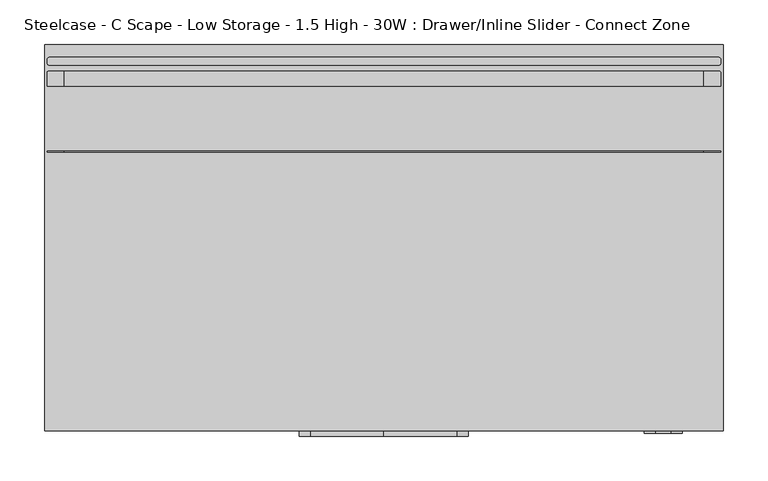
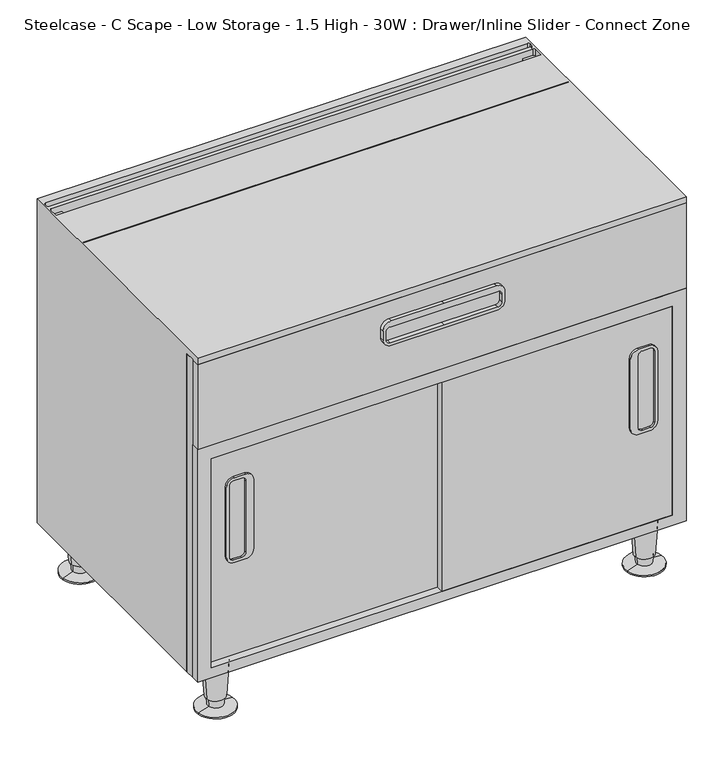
"""IFC4 building model written with IfcOpenShell, lengths in millimetres: furniture geometry, Steelcase - C Scape - Low Storage - 1.5 High - 30W : Drawer/Inline Slider - Connect Zone."""

from ifc_helpers import new_model, si_unit, point, frame, frame_2d, origin, place, context, project, spatial, polyline, circle_curve, trimmed, segment, composite_curve, outline, extrude, source, transform, mapped, element, save
from ifc_brep_helpers import plane_surface, cylinder_surface, revolved_surface, advanced_brep


def steelcase_c_scape_low_storage_1_5_high_30w_drawer_inline_f1fdb914(model_context):
    return source(origin(), model_context, "Body", "SolidModel", [
        extrude(outline(composite_curve([segment(trimmed(circle_curve(frame_2d((373.5963095, 685.0136914)), 12.7015503), [point((386.2978598, 685.0136914))], [point((373.5963095, 672.3121411))], False, "CARTESIAN"), True, "CONTINUOUS"), segment(polyline([(373.5963095, 672.3121411), (259.2993979, 672.3121411)]), True, "CONTINUOUS"), segment(trimmed(circle_curve(frame_2d((259.2993979, 685.0136914)), 12.7015503), [point((259.2993979, 672.3121411))], [point((246.5978477, 685.0136914))], False, "CARTESIAN"), True, "CONTINUOUS"), segment(polyline([(246.5978477, 685.0136914), (246.5978477, 701.902577)]), True, "CONTINUOUS"), segment(trimmed(circle_curve(frame_2d((259.2978537, 701.902577)), 12.7000061), [point((246.5978477, 701.902577))], [point((259.2978537, 714.602583))], False, "CARTESIAN"), True, "CONTINUOUS"), segment(polyline([(259.2978537, 714.602583), (373.6009603, 714.602583)]), True, "CONTINUOUS"), segment(trimmed(circle_curve(frame_2d((373.6009603, 701.9056836)), 12.6968994), [point((373.6009603, 714.602583))], [point((386.2978598, 701.9056836))], False, "CARTESIAN"), True, "CONTINUOUS"), segment(polyline([(386.2978598, 701.9056836), (386.2978598, 685.0136914)]), True, "CONTINUOUS")], self_intersect=False), holes=[composite_curve([segment(trimmed(circle_curve(frame_2d((257.7496016, 703.426521)), 6.3531006), [point((257.7496016, 709.7796216))], [point((251.396501, 703.426521))], True, "CARTESIAN"), True, "CONTINUOUS"), segment(polyline([(251.396501, 703.426521), (251.396501, 690.7296216)]), True, "CONTINUOUS"), segment(trimmed(circle_curve(frame_2d((257.7496016, 690.7296216)), 6.3531006), [point((251.396501, 690.7296216))], [point((257.7496016, 684.376521))], True, "CARTESIAN"), True, "CONTINUOUS"), segment(polyline([(257.7496016, 684.376521), (375.0913854, 684.376521)]), True, "CONTINUOUS"), segment(trimmed(circle_curve(frame_2d((375.0913854, 690.7296216)), 6.3531006), [point((375.0913854, 684.376521))], [point((381.444486, 690.7296216))], True, "CARTESIAN"), True, "CONTINUOUS"), segment(polyline([(381.444486, 690.7296216), (381.444486, 703.426521)]), True, "CONTINUOUS"), segment(trimmed(circle_curve(frame_2d((375.0913854, 703.426521)), 6.3531006), [point((381.444486, 703.426521))], [point((375.0913854, 709.7796216))], True, "CARTESIAN"), True, "CONTINUOUS"), segment(polyline([(375.0913854, 709.7796216), (257.7496016, 709.7796216)]), True, "CONTINUOUS")], self_intersect=False)]), frame((0.0, -436.1182586, 0.0), z_axis=(0.0, 1.0, 0.0), x_axis=(0.0, 0.0, 1.0)), (0.0, 0.0, 1.0), 3.0482586),
        extrude(outline(composite_curve([segment(polyline([(386.2978598, 79.2484961), (386.2978598, 62.3565039)]), True, "CONTINUOUS"), segment(trimmed(circle_curve(frame_2d((373.6009603, 62.3565039)), 12.6968994), [point((386.2978598, 62.3565039))], [point((373.6009603, 49.6596045))], False, "CARTESIAN"), True, "CONTINUOUS"), segment(polyline([(373.6009603, 49.6596045), (259.2978537, 49.6596045)]), True, "CONTINUOUS"), segment(trimmed(circle_curve(frame_2d((259.2978537, 62.3596105)), 12.7000061), [point((259.2978537, 49.6596045))], [point((246.5978477, 62.3596105))], False, "CARTESIAN"), True, "CONTINUOUS"), segment(polyline([(246.5978477, 62.3596105), (246.5978477, 79.2484961)]), True, "CONTINUOUS"), segment(trimmed(circle_curve(frame_2d((259.2993979, 79.2484961)), 12.7015503), [point((246.5978477, 79.2484961))], [point((259.2993979, 91.9500464))], False, "CARTESIAN"), True, "CONTINUOUS"), segment(polyline([(259.2993979, 91.9500464), (373.5963095, 91.9500464)]), True, "CONTINUOUS"), segment(trimmed(circle_curve(frame_2d((373.5963095, 79.2484961)), 12.7015503), [point((373.5963095, 91.9500464))], [point((386.2978598, 79.2484961))], False, "CARTESIAN"), True, "CONTINUOUS")], self_intersect=False), holes=[composite_curve([segment(polyline([(257.7496016, 54.4825659), (375.0913854, 54.4825659)]), True, "CONTINUOUS"), segment(trimmed(circle_curve(frame_2d((375.0913854, 60.8356665)), 6.3531006), [point((375.0913854, 54.4825659))], [point((381.444486, 60.8356665))], True, "CARTESIAN"), True, "CONTINUOUS"), segment(polyline([(381.444486, 60.8356665), (381.444486, 73.5325659)]), True, "CONTINUOUS"), segment(trimmed(circle_curve(frame_2d((375.0913854, 73.5325659)), 6.3531006), [point((381.444486, 73.5325659))], [point((375.0913854, 79.8856665))], True, "CARTESIAN"), True, "CONTINUOUS"), segment(polyline([(375.0913854, 79.8856665), (257.7496016, 79.8856665)]), True, "CONTINUOUS"), segment(trimmed(circle_curve(frame_2d((257.7496016, 73.5325659)), 6.3531006), [point((257.7496016, 79.8856665))], [point((251.396501, 73.5325659))], True, "CARTESIAN"), True, "CONTINUOUS"), segment(polyline([(251.396501, 73.5325659), (251.396501, 60.8356665)]), True, "CONTINUOUS"), segment(trimmed(circle_curve(frame_2d((257.7496016, 60.8356665)), 6.3531006), [point((251.396501, 60.8356665))], [point((257.7496016, 54.4825659))], True, "CARTESIAN"), True, "CONTINUOUS")], self_intersect=False)]), frame((0.0, -424.7213475, 0.0), z_axis=(0.0, 1.0, 0.0), x_axis=(0.0, 0.0, 1.0)), (0.0, 0.0, 1.0), 3.0770066),
        extrude(outline(polyline([(458.7875121, 0.0), (76.2, 0.0), (76.2, 760.73), (458.7875121, 760.73), (458.7875121, 0.0)]), holes=[polyline([(436.8419, 21.3382324), (436.8419, 738.7617285), (92.7100024, 738.7617285), (92.7100024, 21.3382324), (436.8419, 21.3382324)])]), frame((0.0, -433.07, 0.0), z_axis=(0.0, 1.0, 0.0), x_axis=(0.0, 0.0, 1.0)), (0.0, 0.0, 1.0), 13.7159457),
        extrude(outline(polyline([(599.4499291, 0.0), (76.2, 0.0), (76.2, 760.73), (599.4499291, 760.73), (599.4499291, 320.0585382), (599.4499291, 0.0)]), holes=[polyline([(458.7875121, 21.3382324), (582.9399291, 21.3382324), (582.9399291, 738.7617285), (458.7875121, 738.7617285), (458.7875121, 21.3382324)]), polyline([(436.841904, 21.3256814), (436.841904, 738.7617285), (92.7100024, 738.7617285), (92.7100024, 21.3256814), (436.841904, 21.3256814)])]), frame((0.0, -419.3540543, 0.0), z_axis=(0.0, 1.0, 0.0), x_axis=(0.0, 0.0, 1.0)), (0.0, 0.0, 1.0), 14.9860039),
        extrude(outline(composite_curve([segment(trimmed(circle_curve(frame_2d((558.1749291, 297.8147442)), 12.7), [point((570.8749291, 297.8147442))], [point((558.1749291, 285.1147442))], False, "CARTESIAN"), True, "CONTINUOUS"), segment(polyline([(558.1749291, 285.1147442), (543.5699582, 285.1147442)]), True, "CONTINUOUS"), segment(trimmed(circle_curve(frame_2d((543.5699582, 297.8147442)), 12.7), [point((543.5699582, 285.1147442))], [point((530.8699582, 297.8147442))], False, "CARTESIAN"), True, "CONTINUOUS"), segment(polyline([(530.8699582, 297.8147442), (530.8699582, 380.0475), (530.8699582, 462.2802558)]), True, "CONTINUOUS"), segment(trimmed(circle_curve(frame_2d((543.5699582, 462.2802558)), 12.7), [point((530.8699582, 462.2802558))], [point((543.5699582, 474.9802558))], False, "CARTESIAN"), True, "CONTINUOUS"), segment(polyline([(543.5699582, 474.9802558), (558.1749291, 474.9802558)]), True, "CONTINUOUS"), segment(trimmed(circle_curve(frame_2d((558.1749291, 462.2802558)), 12.7), [point((558.1749291, 474.9802558))], [point((570.8749291, 462.2802558))], False, "CARTESIAN"), True, "CONTINUOUS"), segment(polyline([(570.8749291, 462.2802558), (570.8749291, 380.0475), (570.8749291, 297.8147442)]), True, "CONTINUOUS")], self_intersect=False), holes=[composite_curve([segment(trimmed(circle_curve(frame_2d((554.7459476, 296.2923565)), 6.35), [point((554.7459476, 289.9423565))], [point((561.0959476, 296.2923565))], True, "CARTESIAN"), True, "CONTINUOUS"), segment(polyline([(561.0959476, 296.2923565), (561.0959476, 380.0475), (561.0959476, 463.8026435)]), True, "CONTINUOUS"), segment(trimmed(circle_curve(frame_2d((554.7459476, 463.8026435)), 6.35), [point((561.0959476, 463.8026435))], [point((554.7459476, 470.1526435))], True, "CARTESIAN"), True, "CONTINUOUS"), segment(polyline([(554.7459476, 470.1526435), (542.0459354, 470.1526435)]), True, "CONTINUOUS"), segment(trimmed(circle_curve(frame_2d((542.0459354, 463.8026435)), 6.35), [point((542.0459354, 470.1526435))], [point((535.6959354, 463.8026435))], True, "CARTESIAN"), True, "CONTINUOUS"), segment(polyline([(535.6959354, 463.8026435), (535.6959354, 380.0475), (535.6959354, 296.2923565)]), True, "CONTINUOUS"), segment(trimmed(circle_curve(frame_2d((542.0459354, 296.2923565)), 6.35), [point((535.6959354, 296.2923565))], [point((542.0459354, 289.9423565))], True, "CARTESIAN"), True, "CONTINUOUS"), segment(polyline([(542.0459354, 289.9423565), (554.7459476, 289.9423565)]), True, "CONTINUOUS")], self_intersect=False)]), frame((0.0, -439.42, 0.0), z_axis=(0.0, 1.0, 0.0), x_axis=(0.0, 0.0, 1.0)), (0.0, 0.0, 1.0), 6.35),
        advanced_brep(
        [(65.5422821, -397.1702762, 76.2), (27.8805432, -402.9325174, 76.2), (46.7114126, -400.0513968, 76.2), (61.5919341, -397.774679, 19.05), (31.8308912, -402.3281146, 19.05), (59.1623471, -398.1464055, 19.05), (34.2604781, -401.9563882, 19.05), (58.4735776, -398.2517871, 5.7545598), (34.9492476, -401.8510065, 5.7545598), (75.8224611, -395.5974102, 2.5119506), (17.6003641, -404.5053834, 2.5119506), (75.8224611, -395.5974102, 0.0), (17.6003641, -404.5053834, 0.0), (46.7114126, -400.0513968, 0.0)],
        [
            (0, 1, circle_curve(frame((46.7114126, -400.0513968, 76.2), z_axis=(0.0, 0.0, 1.0), x_axis=(0.0, -1.0, 0.0)), 19.05)),
            (1, 2),
            (2, 0),
            (1, 0, circle_curve(frame((46.7114126, -400.0513968, 76.2), z_axis=(0.0, 0.0, 1.0), x_axis=(0.0, -1.0, 0.0)), 19.05)),
            (3, 4, circle_curve(frame((46.7114126, -400.0513968, 19.05), z_axis=(0.0, 0.0, 1.0), x_axis=(0.0, -1.0, 0.0)), 15.0536827)),
            (4, 1),
            (0, 3),
            (4, 3, circle_curve(frame((46.7114126, -400.0513968, 19.05), z_axis=(0.0, 0.0, 1.0), x_axis=(0.0, -1.0, 0.0)), 15.0536827)),
            (5, 6, circle_curve(frame((46.7114126, -400.0513968, 19.05), z_axis=(0.0, 0.0, 1.0), x_axis=(0.0, -1.0, 0.0)), 12.5958232)),
            (6, 4),
            (3, 5),
            (6, 5, circle_curve(frame((46.7114126, -400.0513968, 19.05), z_axis=(0.0, 0.0, 1.0), x_axis=(0.0, -1.0, 0.0)), 12.5958232)),
            (7, 8, circle_curve(frame((46.7114126, -400.0513968, 5.7545598), z_axis=(0.0, 0.0, 1.0), x_axis=(0.0, -1.0, 0.0)), 11.8990387)),
            (8, 6),
            (5, 7),
            (8, 7, circle_curve(frame((46.7114126, -400.0513968, 5.7545598), z_axis=(0.0, 0.0, 1.0), x_axis=(0.0, -1.0, 0.0)), 11.8990387)),
            (9, 10, circle_curve(frame((46.7114126, -400.0513968, 2.5119506), z_axis=(0.0, 0.0, 1.0), x_axis=(0.0, -1.0, 0.0)), 29.4498071)),
            (10, 8),
            (7, 9),
            (10, 9, circle_curve(frame((46.7114126, -400.0513968, 2.5119506), z_axis=(0.0, 0.0, 1.0), x_axis=(0.0, -1.0, 0.0)), 29.4498071)),
            (11, 12, circle_curve(frame((46.7114126, -400.0513968, 0.0), z_axis=(0.0, 0.0, 1.0), x_axis=(0.0, -1.0, 0.0)), 29.4498071)),
            (12, 10),
            (9, 11),
            (12, 11, circle_curve(frame((46.7114126, -400.0513968, 0.0), z_axis=(0.0, 0.0, 1.0), x_axis=(0.0, -1.0, 0.0)), 29.4498071)),
            (13, 12),
            (11, 13),
        ],
        [
            plane_surface(frame((46.7114126, -400.0513968, 76.2), z_axis=(0.0, 0.0, 1.0), x_axis=(0.0, -1.0, 0.0))),
            revolved_surface(polyline([(46.7114126, -419.1013968, 76.2), (46.7114126, -415.1050795, 19.05)]), (46.7114126, -400.0513968, 25.4), (0.0, 0.0, -1.0)),
            plane_surface(frame((46.7114126, -400.0513968, 19.05), z_axis=(0.0, 0.0, -1.0), x_axis=(0.0, -1.0, 0.0))),
            revolved_surface(polyline([(46.7114126, -412.64722, 19.05), (46.7114126, -411.9504355, 5.7545598)]), (46.7114126, -400.0513968, 25.4), (0.0, 0.0, -1.0)),
            revolved_surface(polyline([(46.7114126, -411.9504355, 5.7545598), (46.7114126, -429.5012039, 2.5119506)]), (46.7114126, -400.0513968, 25.4), (0.0, 0.0, -1.0)),
            cylinder_surface(frame((46.7114126, -400.0513968, 25.4), z_axis=(0.0, 0.0, -1.0), x_axis=(0.0, -1.0, 0.0)), 29.4498071),
            plane_surface(frame((46.7114126, -400.0513968, 0.0), z_axis=(0.0, 0.0, -1.0), x_axis=(0.0, -1.0, 0.0))),
        ],
        [
            (0, [[1, 2, 3]]),
            (0, [[4, -3, -2]]),
            (1, [[5, 6, -1, 7]]),
            (1, [[8, -7, -4, -6]]),
            (2, [[9, 10, -5, 11]]),
            (2, [[12, -11, -8, -10]]),
            (3, [[13, 14, -9, 15]]),
            (3, [[16, -15, -12, -14]]),
            (4, [[17, 18, -13, 19]]),
            (4, [[20, -19, -16, -18]]),
            (5, [[21, 22, -17, 23]]),
            (5, [[24, -23, -20, -22]]),
            (6, [[25, -21, 26]]),
            (6, [[-26, -24, -25]]),
        ],
    ),
        advanced_brep(
        [(733.4598695, -397.1702762, 76.2), (695.7981305, -402.9325174, 76.2), (714.629, -400.0513968, 76.2), (729.5095214, -397.774679, 19.05), (699.7484786, -402.3281146, 19.05), (727.0799345, -398.1464055, 19.05), (702.1780655, -401.9563882, 19.05), (726.391165, -398.2517871, 5.7545598), (702.866835, -401.8510065, 5.7545598), (743.7400485, -395.5974102, 2.5119506), (685.5179515, -404.5053834, 2.5119506), (743.7400485, -395.5974102, 0.0), (685.5179515, -404.5053834, 0.0), (714.629, -400.0513968, 0.0)],
        [
            (0, 1, circle_curve(frame((714.629, -400.0513968, 76.2), z_axis=(0.0, 0.0, 1.0), x_axis=(0.0, -1.0, 0.0)), 19.05)),
            (1, 2),
            (2, 0),
            (1, 0, circle_curve(frame((714.629, -400.0513968, 76.2), z_axis=(0.0, 0.0, 1.0), x_axis=(0.0, -1.0, 0.0)), 19.05)),
            (3, 4, circle_curve(frame((714.629, -400.0513968, 19.05), z_axis=(0.0, 0.0, 1.0), x_axis=(0.0, -1.0, 0.0)), 15.0536827)),
            (4, 1),
            (0, 3),
            (4, 3, circle_curve(frame((714.629, -400.0513968, 19.05), z_axis=(0.0, 0.0, 1.0), x_axis=(0.0, -1.0, 0.0)), 15.0536827)),
            (5, 6, circle_curve(frame((714.629, -400.0513968, 19.05), z_axis=(0.0, 0.0, 1.0), x_axis=(0.0, -1.0, 0.0)), 12.5958232)),
            (6, 4),
            (3, 5),
            (6, 5, circle_curve(frame((714.629, -400.0513968, 19.05), z_axis=(0.0, 0.0, 1.0), x_axis=(0.0, -1.0, 0.0)), 12.5958232)),
            (7, 8, circle_curve(frame((714.629, -400.0513968, 5.7545598), z_axis=(0.0, 0.0, 1.0), x_axis=(0.0, -1.0, 0.0)), 11.8990387)),
            (8, 6),
            (5, 7),
            (8, 7, circle_curve(frame((714.629, -400.0513968, 5.7545598), z_axis=(0.0, 0.0, 1.0), x_axis=(0.0, -1.0, 0.0)), 11.8990387)),
            (9, 10, circle_curve(frame((714.629, -400.0513968, 2.5119506), z_axis=(0.0, 0.0, 1.0), x_axis=(0.0, -1.0, 0.0)), 29.4498071)),
            (10, 8),
            (7, 9),
            (10, 9, circle_curve(frame((714.629, -400.0513968, 2.5119506), z_axis=(0.0, 0.0, 1.0), x_axis=(0.0, -1.0, 0.0)), 29.4498071)),
            (11, 12, circle_curve(frame((714.629, -400.0513968, 0.0), z_axis=(0.0, 0.0, 1.0), x_axis=(0.0, -1.0, 0.0)), 29.4498071)),
            (12, 10),
            (9, 11),
            (12, 11, circle_curve(frame((714.629, -400.0513968, 0.0), z_axis=(0.0, 0.0, 1.0), x_axis=(0.0, -1.0, 0.0)), 29.4498071)),
            (13, 12),
            (11, 13),
        ],
        [
            plane_surface(frame((714.629, -400.0513968, 76.2), z_axis=(0.0, 0.0, 1.0), x_axis=(0.0, -1.0, 0.0))),
            revolved_surface(polyline([(714.629, -419.1013968, 76.2), (714.629, -415.1050795, 19.05)]), (714.629, -400.0513968, 25.4), (0.0, 0.0, -1.0)),
            plane_surface(frame((714.629, -400.0513968, 19.05), z_axis=(0.0, 0.0, -1.0), x_axis=(0.0, -1.0, 0.0))),
            revolved_surface(polyline([(714.629, -412.64722, 19.05), (714.629, -411.9504355, 5.7545598)]), (714.629, -400.0513968, 25.4), (0.0, 0.0, -1.0)),
            revolved_surface(polyline([(714.629, -411.9504355, 5.7545598), (714.629, -429.5012039, 2.5119506)]), (714.629, -400.0513968, 25.4), (0.0, 0.0, -1.0)),
            cylinder_surface(frame((714.629, -400.0513968, 25.4), z_axis=(0.0, 0.0, -1.0), x_axis=(0.0, -1.0, 0.0)), 29.4498071),
            plane_surface(frame((714.629, -400.0513968, 0.0), z_axis=(0.0, 0.0, -1.0), x_axis=(0.0, -1.0, 0.0))),
        ],
        [
            (0, [[1, 2, 3]]),
            (0, [[4, -3, -2]]),
            (1, [[5, 6, -1, 7]]),
            (1, [[8, -7, -4, -6]]),
            (2, [[9, 10, -5, 11]]),
            (2, [[12, -11, -8, -10]]),
            (3, [[13, 14, -9, 15]]),
            (3, [[16, -15, -12, -14]]),
            (4, [[17, 18, -13, 19]]),
            (4, [[20, -19, -16, -18]]),
            (5, [[21, 22, -17, 23]]),
            (5, [[24, -23, -20, -22]]),
            (6, [[25, -21, 26]]),
            (6, [[-26, -24, -25]]),
        ],
    ),
        advanced_brep(
        [(733.4598695, -31.5218435, 76.2), (695.7981305, -37.2840847, 76.2), (714.629, -34.4029641, 76.2), (729.5095214, -32.1262463, 19.05), (699.7484786, -36.6796819, 19.05), (727.0799345, -32.4979728, 19.05), (702.1780655, -36.3079555, 19.05), (726.391165, -32.6033544, 5.7545598), (702.866835, -36.2025738, 5.7545598), (743.7400485, -29.9489775, 2.5119506), (685.5179515, -38.8569507, 2.5119506), (743.7400485, -29.9489775, 0.0), (685.5179515, -38.8569507, 0.0), (714.629, -34.4029641, 0.0)],
        [
            (0, 1, circle_curve(frame((714.629, -34.4029641, 76.2), z_axis=(0.0, 0.0, 1.0), x_axis=(0.0, -1.0, 0.0)), 19.05)),
            (1, 2),
            (2, 0),
            (1, 0, circle_curve(frame((714.629, -34.4029641, 76.2), z_axis=(0.0, 0.0, 1.0), x_axis=(0.0, -1.0, 0.0)), 19.05)),
            (3, 4, circle_curve(frame((714.629, -34.4029641, 19.05), z_axis=(0.0, 0.0, 1.0), x_axis=(0.0, -1.0, 0.0)), 15.0536827)),
            (4, 1),
            (0, 3),
            (4, 3, circle_curve(frame((714.629, -34.4029641, 19.05), z_axis=(0.0, 0.0, 1.0), x_axis=(0.0, -1.0, 0.0)), 15.0536827)),
            (5, 6, circle_curve(frame((714.629, -34.4029641, 19.05), z_axis=(0.0, 0.0, 1.0), x_axis=(0.0, -1.0, 0.0)), 12.5958232)),
            (6, 4),
            (3, 5),
            (6, 5, circle_curve(frame((714.629, -34.4029641, 19.05), z_axis=(0.0, 0.0, 1.0), x_axis=(0.0, -1.0, 0.0)), 12.5958232)),
            (7, 8, circle_curve(frame((714.629, -34.4029641, 5.7545598), z_axis=(0.0, 0.0, 1.0), x_axis=(0.0, -1.0, 0.0)), 11.8990387)),
            (8, 6),
            (5, 7),
            (8, 7, circle_curve(frame((714.629, -34.4029641, 5.7545598), z_axis=(0.0, 0.0, 1.0), x_axis=(0.0, -1.0, 0.0)), 11.8990387)),
            (9, 10, circle_curve(frame((714.629, -34.4029641, 2.5119506), z_axis=(0.0, 0.0, 1.0), x_axis=(0.0, -1.0, 0.0)), 29.4498071)),
            (10, 8),
            (7, 9),
            (10, 9, circle_curve(frame((714.629, -34.4029641, 2.5119506), z_axis=(0.0, 0.0, 1.0), x_axis=(0.0, -1.0, 0.0)), 29.4498071)),
            (11, 12, circle_curve(frame((714.629, -34.4029641, 0.0), z_axis=(0.0, 0.0, 1.0), x_axis=(0.0, -1.0, 0.0)), 29.4498071)),
            (12, 10),
            (9, 11),
            (12, 11, circle_curve(frame((714.629, -34.4029641, 0.0), z_axis=(0.0, 0.0, 1.0), x_axis=(0.0, -1.0, 0.0)), 29.4498071)),
            (13, 12),
            (11, 13),
        ],
        [
            plane_surface(frame((714.629, -34.4029641, 76.2), z_axis=(0.0, 0.0, 1.0), x_axis=(0.0, -1.0, 0.0))),
            revolved_surface(polyline([(714.629, -53.4529641, 76.2), (714.629, -49.4566468, 19.05)]), (714.629, -34.4029641, 25.4), (0.0, 0.0, -1.0)),
            plane_surface(frame((714.629, -34.4029641, 19.05), z_axis=(0.0, 0.0, -1.0), x_axis=(0.0, -1.0, 0.0))),
            revolved_surface(polyline([(714.629, -46.9987873, 19.05), (714.629, -46.3020028, 5.7545598)]), (714.629, -34.4029641, 25.4), (0.0, 0.0, -1.0)),
            revolved_surface(polyline([(714.629, -46.3020028, 5.7545598), (714.629, -63.8527712, 2.5119506)]), (714.629, -34.4029641, 25.4), (0.0, 0.0, -1.0)),
            cylinder_surface(frame((714.629, -34.4029641, 25.4), z_axis=(0.0, 0.0, -1.0), x_axis=(0.0, -1.0, 0.0)), 29.4498071),
            plane_surface(frame((714.629, -34.4029641, 0.0), z_axis=(0.0, 0.0, -1.0), x_axis=(0.0, -1.0, 0.0))),
        ],
        [
            (0, [[1, 2, 3]]),
            (0, [[4, -3, -2]]),
            (1, [[5, 6, -1, 7]]),
            (1, [[8, -7, -4, -6]]),
            (2, [[9, 10, -5, 11]]),
            (2, [[12, -11, -8, -10]]),
            (3, [[13, 14, -9, 15]]),
            (3, [[16, -15, -12, -14]]),
            (4, [[17, 18, -13, 19]]),
            (4, [[20, -19, -16, -18]]),
            (5, [[21, 22, -17, 23]]),
            (5, [[24, -23, -20, -22]]),
            (6, [[25, -21, 26]]),
            (6, [[-26, -24, -25]]),
        ],
    ),
        advanced_brep(
        [(65.5422821, -31.5218435, 76.2), (27.8805432, -37.2840847, 76.2), (46.7114126, -34.4029641, 76.2), (61.5919341, -32.1262463, 19.05), (31.8308912, -36.6796819, 19.05), (59.1623471, -32.4979728, 19.05), (34.2604781, -36.3079555, 19.05), (58.4735776, -32.6033544, 5.7545598), (34.9492476, -36.2025738, 5.7545598), (75.8224611, -29.9489775, 2.5119506), (17.6003641, -38.8569507, 2.5119506), (75.8224611, -29.9489775, 0.0), (17.6003641, -38.8569507, 0.0), (46.7114126, -34.4029641, 0.0)],
        [
            (0, 1, circle_curve(frame((46.7114126, -34.4029641, 76.2), z_axis=(0.0, 0.0, 1.0), x_axis=(0.0, -1.0, 0.0)), 19.05)),
            (1, 2),
            (2, 0),
            (1, 0, circle_curve(frame((46.7114126, -34.4029641, 76.2), z_axis=(0.0, 0.0, 1.0), x_axis=(0.0, -1.0, 0.0)), 19.05)),
            (3, 4, circle_curve(frame((46.7114126, -34.4029641, 19.05), z_axis=(0.0, 0.0, 1.0), x_axis=(0.0, -1.0, 0.0)), 15.0536827)),
            (4, 1),
            (0, 3),
            (4, 3, circle_curve(frame((46.7114126, -34.4029641, 19.05), z_axis=(0.0, 0.0, 1.0), x_axis=(0.0, -1.0, 0.0)), 15.0536827)),
            (5, 6, circle_curve(frame((46.7114126, -34.4029641, 19.05), z_axis=(0.0, 0.0, 1.0), x_axis=(0.0, -1.0, 0.0)), 12.5958232)),
            (6, 4),
            (3, 5),
            (6, 5, circle_curve(frame((46.7114126, -34.4029641, 19.05), z_axis=(0.0, 0.0, 1.0), x_axis=(0.0, -1.0, 0.0)), 12.5958232)),
            (7, 8, circle_curve(frame((46.7114126, -34.4029641, 5.7545598), z_axis=(0.0, 0.0, 1.0), x_axis=(0.0, -1.0, 0.0)), 11.8990387)),
            (8, 6),
            (5, 7),
            (8, 7, circle_curve(frame((46.7114126, -34.4029641, 5.7545598), z_axis=(0.0, 0.0, 1.0), x_axis=(0.0, -1.0, 0.0)), 11.8990387)),
            (9, 10, circle_curve(frame((46.7114126, -34.4029641, 2.5119506), z_axis=(0.0, 0.0, 1.0), x_axis=(0.0, -1.0, 0.0)), 29.4498071)),
            (10, 8),
            (7, 9),
            (10, 9, circle_curve(frame((46.7114126, -34.4029641, 2.5119506), z_axis=(0.0, 0.0, 1.0), x_axis=(0.0, -1.0, 0.0)), 29.4498071)),
            (11, 12, circle_curve(frame((46.7114126, -34.4029641, 0.0), z_axis=(0.0, 0.0, 1.0), x_axis=(0.0, -1.0, 0.0)), 29.4498071)),
            (12, 10),
            (9, 11),
            (12, 11, circle_curve(frame((46.7114126, -34.4029641, 0.0), z_axis=(0.0, 0.0, 1.0), x_axis=(0.0, -1.0, 0.0)), 29.4498071)),
            (13, 12),
            (11, 13),
        ],
        [
            plane_surface(frame((46.7114126, -34.4029641, 76.2), z_axis=(0.0, 0.0, 1.0), x_axis=(0.0, -1.0, 0.0))),
            revolved_surface(polyline([(46.7114126, -53.4529641, 76.2), (46.7114126, -49.4566468, 19.05)]), (46.7114126, -34.4029641, 25.4), (0.0, 0.0, -1.0)),
            plane_surface(frame((46.7114126, -34.4029641, 19.05), z_axis=(0.0, 0.0, -1.0), x_axis=(0.0, -1.0, 0.0))),
            revolved_surface(polyline([(46.7114126, -46.9987873, 19.05), (46.7114126, -46.3020028, 5.7545598)]), (46.7114126, -34.4029641, 25.4), (0.0, 0.0, -1.0)),
            revolved_surface(polyline([(46.7114126, -46.3020028, 5.7545598), (46.7114126, -63.8527712, 2.5119506)]), (46.7114126, -34.4029641, 25.4), (0.0, 0.0, -1.0)),
            cylinder_surface(frame((46.7114126, -34.4029641, 25.4), z_axis=(0.0, 0.0, -1.0), x_axis=(0.0, -1.0, 0.0)), 29.4498071),
            plane_surface(frame((46.7114126, -34.4029641, 0.0), z_axis=(0.0, 0.0, -1.0), x_axis=(0.0, -1.0, 0.0))),
        ],
        [
            (0, [[1, 2, 3]]),
            (0, [[4, -3, -2]]),
            (1, [[5, 6, -1, 7]]),
            (1, [[8, -7, -4, -6]]),
            (2, [[9, 10, -5, 11]]),
            (2, [[12, -11, -8, -10]]),
            (3, [[13, 14, -9, 15]]),
            (3, [[16, -15, -12, -14]]),
            (4, [[17, 18, -13, 19]]),
            (4, [[20, -19, -16, -18]]),
            (5, [[21, 22, -17, 23]]),
            (5, [[24, -23, -20, -22]]),
            (6, [[25, -21, 26]]),
            (6, [[-26, -24, -25]]),
        ],
    ),
        advanced_brep(
        [(757.9272317, -120.6444193, 609.6), (757.9272317, -119.3775195, 609.6), (757.9272317, -119.3775195, 599.4499291), (757.9272317, -120.6444193, 599.4499291), (757.9272317, -46.4703418, 609.6), (757.9272317, -32.274699, 609.6), (757.9272317, -32.274699, 599.4499291), (757.9272317, -46.4703418, 599.4499291), (757.9272317, -20.3138654, 609.6), (757.9272317, -17.0388453, 609.6), (757.9272317, -17.0388453, 599.4499291), (757.9272317, -20.3138654, 599.4499291), (760.73, 0.0055807, 609.6), (760.73, -433.07, 609.6), (760.73, -433.07, 599.4499291), (760.73, -404.3680504, 599.4499291), (760.73, -404.3680504, 76.2), (760.73, 0.0, 76.2), (0.0, -433.07, 609.6), (-0.012551, 0.0055807, 609.6), (755.2308823, -29.5783496, 609.6), (2.7826272, -46.4703418, 609.6), (2.7826272, -32.0458511, 609.6), (5.2501287, -29.5783496, 609.6), (754.9507358, -23.2903613, 609.6), (5.5670648, -23.2903613, 609.6), (2.7826272, -20.5059237, 609.6), (2.7826272, -17.0388453, 609.6), (5.4794022, -14.3420703, 609.6), (755.2304567, -14.3420703, 609.6), (2.7826272, -119.3775195, 609.6), (2.7826272, -120.6444193, 609.6), (0.0, 0.0055807, 76.2), (495.6775189, 0.0055807, 466.2677968), (264.4174811, 0.0055807, 466.2677968), (264.4174811, 0.0055807, 432.6382043), (380.0475, 0.0055807, 432.6382043), (495.6775189, 0.0055807, 432.6382043), (495.6775189, -9.5194193, 466.2677968), (264.4174811, -9.5194193, 466.2677968), (495.6775189, -9.5194193, 450.8499879), (264.4174811, -9.5194193, 450.8499879), (5.2501287, -29.5783496, 599.4499291), (21.3256814, -29.5783496, 599.4499291), (21.3256814, -29.5783496, 458.7875121), (738.7491775, -29.5783496, 458.7875121), (738.7491775, -29.5783496, 599.4499291), (755.2308823, -29.5783496, 599.4499291), (738.7491775, -119.3775195, 599.4499291), (21.3256814, -119.3775195, 599.4499291), (21.3256814, -46.4703418, 599.4499291), (738.7491775, -46.4703418, 599.4499291), (754.9507358, -23.2903613, 599.4499291), (5.5670648, -23.2903613, 599.4499291), (2.7826272, -20.5059237, 599.4499291), (2.7826272, -32.0458511, 599.4499291), (2.7826272, -46.4703418, 599.4499291), (2.7826272, -119.3775195, 599.4499291), (5.4794022, -14.3420703, 599.4499291), (755.2304567, -14.3420703, 599.4499291), (2.7826272, -17.0388453, 599.4499291), (21.3256814, -120.6444193, 599.4499291), (2.7826272, -120.6444193, 599.4499291), (738.7491775, -120.6444193, 599.4499291), (21.3256814, -404.3680504, 92.7100024), (738.7491775, -404.3680504, 92.7100024), (738.7491775, -9.5194193, 92.7100024), (21.3256814, -9.5194193, 92.7100024), (0.0, -404.3680504, 76.2), (0.0, -404.3680504, 599.4499291), (0.0, -433.07, 599.4499291), (738.7491775, -404.3680504, 599.4499291), (738.7491775, -404.3680504, 458.7875121), (21.3256814, -404.3680504, 458.7875121), (21.3256814, -404.3680504, 599.4499291), (21.3256814, -404.3680504, 450.8499879), (738.7491775, -404.3680504, 450.8499879), (21.3256814, -126.9863574, 599.4499291), (738.7491775, -126.9863574, 599.4499291), (21.3256814, -126.9863574, 458.7875121), (738.7491775, -126.9863574, 458.7875121), (738.7491775, -120.6444193, 458.7875121), (21.3256814, -120.6444193, 458.7875121), (21.3256814, -9.5194193, 450.8499879), (738.7491775, -9.5194193, 450.8499879), (495.6775189, -9.5194193, 432.6382043), (380.0475, -9.5194193, 432.6382043), (264.4174811, -9.5194193, 432.6382043)],
        [
            (0, 1),
            (1, 2),
            (2, 3),
            (3, 0),
            (4, 5),
            (5, 6),
            (6, 7),
            (7, 4),
            (8, 9),
            (9, 10),
            (10, 11),
            (11, 8),
            (12, 13),
            (13, 14),
            (14, 15),
            (15, 16),
            (16, 17),
            (17, 12),
            (18, 13),
            (12, 19),
            (19, 18),
            (20, 5, circle_curve(frame((755.2308823, -32.274699, 609.6), z_axis=(0.0, 0.0, -1.0), x_axis=(1.0, 0.0, 0.0)), 2.6963494)),
            (4, 21),
            (21, 22),
            (22, 23, circle_curve(frame((5.2501287, -32.0458511, 609.6), z_axis=(0.0, 0.0, -1.0), x_axis=(1.0, 0.0, 0.0)), 2.4675015)),
            (23, 20),
            (8, 24, circle_curve(frame((754.9507358, -20.3138654, 609.6), z_axis=(0.0, 0.0, -1.0), x_axis=(1.0, 0.0, 0.0)), 2.9764959)),
            (24, 25),
            (25, 26, circle_curve(frame((5.5670648, -20.5059237, 609.6), z_axis=(0.0, 0.0, -1.0), x_axis=(1.0, 0.0, 0.0)), 2.7844376)),
            (26, 27),
            (27, 28, circle_curve(frame((5.4794022, -17.0388453, 609.6), z_axis=(0.0, 0.0, -1.0), x_axis=(1.0, 0.0, 0.0)), 2.696775)),
            (28, 29),
            (29, 9, circle_curve(frame((755.2304567, -17.0388453, 609.6), z_axis=(0.0, 0.0, -1.0), x_axis=(1.0, 0.0, 0.0)), 2.696775)),
            (30, 1),
            (0, 31),
            (31, 30),
            (17, 32),
            (32, 19),
            (33, 34),
            (34, 35),
            (35, 36),
            (36, 37),
            (37, 33),
            (33, 38),
            (38, 39),
            (39, 34),
            (38, 40),
            (40, 41),
            (41, 39),
            (23, 42),
            (42, 43),
            (43, 44),
            (44, 45),
            (45, 46),
            (46, 47),
            (47, 20),
            (48, 49),
            (49, 50),
            (50, 51),
            (51, 48),
            (47, 6, circle_curve(frame((755.2308823, -32.274699, 599.4499291), z_axis=(0.0, 0.0, -1.0), x_axis=(1.0, 0.0, 0.0)), 2.6963494)),
            (11, 52, circle_curve(frame((754.9507358, -20.3138654, 599.4499291), z_axis=(0.0, 0.0, -1.0), x_axis=(1.0, 0.0, 0.0)), 2.9764959)),
            (52, 24),
            (52, 53),
            (53, 25),
            (53, 54, circle_curve(frame((5.5670648, -20.5059237, 599.4499291), z_axis=(0.0, 0.0, -1.0), x_axis=(1.0, 0.0, 0.0)), 2.7844376)),
            (54, 26),
            (22, 55),
            (55, 42, circle_curve(frame((5.2501287, -32.0458511, 599.4499291), z_axis=(0.0, 0.0, -1.0), x_axis=(1.0, 0.0, 0.0)), 2.4675015)),
            (7, 51),
            (50, 56),
            (56, 21),
            (30, 57),
            (57, 49),
            (48, 2),
            (28, 58),
            (58, 59),
            (59, 29),
            (59, 10, circle_curve(frame((755.2304567, -17.0388453, 599.4499291), z_axis=(0.0, 0.0, -1.0), x_axis=(1.0, 0.0, 0.0)), 2.696775)),
            (27, 60),
            (60, 58, circle_curve(frame((5.4794022, -17.0388453, 599.4499291), z_axis=(0.0, 0.0, -1.0), x_axis=(1.0, 0.0, 0.0)), 2.696775)),
            (61, 49),
            (57, 62),
            (62, 61),
            (48, 63),
            (63, 3),
            (60, 54),
            (50, 43),
            (55, 56),
            (46, 51),
            (64, 65),
            (65, 66),
            (66, 67),
            (67, 64),
            (16, 68),
            (68, 32),
            (68, 69),
            (69, 70),
            (70, 18),
            (15, 71),
            (71, 72),
            (72, 73),
            (73, 74),
            (74, 69),
            (64, 75),
            (75, 76),
            (76, 65),
            (70, 14),
            (74, 77),
            (77, 78),
            (78, 71),
            (77, 79),
            (79, 80),
            (80, 78),
            (63, 81),
            (81, 82),
            (82, 61),
            (62, 31),
            (44, 82),
            (81, 45),
            (79, 73),
            (72, 80),
            (75, 83),
            (83, 41),
            (40, 84),
            (84, 76),
            (67, 83),
            (84, 66),
            (85, 86),
            (86, 87),
            (87, 41),
            (40, 85),
            (37, 85),
            (36, 86),
            (35, 87),
        ],
        [
            plane_surface(frame((757.9272317, -120.6444193, 609.6), z_axis=(-1.0, 0.0, 0.0), x_axis=(0.0, -1.4185860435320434e-12, 1.0))),
            plane_surface(frame((760.73, -120.6444193, 609.6), z_axis=(1.0, 0.0, 0.0), x_axis=(0.0, 1.4185860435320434e-12, -1.0))),
            plane_surface(frame((757.9272317, -120.6444193, 609.6), z_axis=(0.0, 0.0, 1.0), x_axis=(1.0, 0.0, 0.0))),
            plane_surface(frame((757.9272317, 0.0055807, 609.6), z_axis=(0.0, 1.0, 0.0), x_axis=(1.0, 0.0, 0.0))),
            plane_surface(frame((757.9272317, 0.0055807, 466.2677968), z_axis=(0.0, 0.0, -1.0), x_axis=(1.0, 0.0, 0.0))),
            plane_surface(frame((757.9272317, -9.5194193, 466.2677968), z_axis=(0.0, 1.0, 0.0), x_axis=(1.0, 0.0, 0.0))),
            plane_surface(frame((757.9272317, -29.5783496, 458.7875121), z_axis=(0.0, -1.0, 0.0), x_axis=(1.0, 0.0, 0.0))),
            plane_surface(frame((757.9272317, -29.5783496, 599.4499291), z_axis=(0.0, 0.0, -1.0), x_axis=(1.0, 0.0, 0.0))),
            revolved_surface(polyline([(757.9272317, -32.274699, 599.4499291), (757.9272317, -32.274699, 609.6)]), (755.2308823, -32.274699, 599.4499291), (0.0, 0.0, -1.0)),
            revolved_surface(polyline([(757.9272317, -20.3138654, 599.4499291), (757.9272317, -20.3138654, 609.6)]), (754.9507358, -20.3138654, 599.4499291), (0.0, 0.0, -1.0)),
            plane_surface(frame((754.9507358, -23.2903613, 609.6), z_axis=(0.0, 1.0, 0.0), x_axis=(0.0, 0.0, -1.0))),
            revolved_surface(polyline([(8.3515024, -20.5059237, 599.4499291), (8.3515024, -20.5059237, 609.6)]), (5.5670648, -20.5059237, 599.4499291), (0.0, 0.0, -1.0)),
            revolved_surface(polyline([(7.7176302, -32.0458511, 599.4499291), (7.7176302, -32.0458511, 609.6)]), (5.2501287, -32.0458511, 599.4499291), (0.0, 0.0, -1.0)),
            plane_surface(frame((757.9272317, -46.4703418, 609.6), z_axis=(0.0, 1.0, 0.0), x_axis=(0.0, 0.0, -1.0))),
            plane_surface(frame((2.7826272, -119.3775195, 609.6), z_axis=(0.0, -1.0, 0.0), x_axis=(0.0, 0.0, -1.0))),
            plane_surface(frame((5.4794022, -14.3420703, 609.6), z_axis=(0.0, -1.0, 0.0), x_axis=(0.0, 0.0, -1.0))),
            revolved_surface(polyline([(757.9272317, -17.0388453, 599.4499291), (757.9272317, -17.0388453, 609.6)]), (755.2304567, -17.0388453, 41.6295811), (0.0, 0.0, -1.0)),
            revolved_surface(polyline([(8.1761772, -17.0388453, 599.4499291), (8.1761772, -17.0388453, 609.6)]), (5.4794022, -17.0388453, 41.6295811), (0.0, 0.0, -1.0)),
            plane_surface(frame((757.9272317, 0.0055807, 599.4499291), z_axis=(0.0, 0.0, 1.0), x_axis=(-1.0, 0.0, 0.0))),
            plane_surface(frame((0.0, 0.0, 92.7100024), z_axis=(0.0, 0.0, 1.0), x_axis=(-1.0, 0.0, 0.0))),
            plane_surface(frame((0.0, 0.0, 76.2), z_axis=(0.0, 0.0, -1.0), x_axis=(1.0, 0.0, 0.0))),
            plane_surface(frame((0.0, 0.0, 92.7100024), z_axis=(-1.0, 0.0, 0.0), x_axis=(0.0, 0.0, -1.0))),
            plane_surface(frame((0.0, -404.3680504, 92.7100024), z_axis=(0.0, -1.0, 0.0), x_axis=(0.0, 0.0, -1.0))),
            plane_surface(frame((760.73, -433.07, 609.6), z_axis=(0.0, -1.0, 0.0), x_axis=(-1.0, 0.0, 0.0))),
            plane_surface(frame((760.73, -433.07, 599.4499291), z_axis=(0.0, 0.0, -1.0), x_axis=(-1.0, 0.0, 0.0))),
            plane_surface(frame((760.73, -126.9863574, 599.4499291), z_axis=(0.0, -1.0, 0.0), x_axis=(-1.0, 0.0, 0.0))),
            plane_surface(frame((760.73, -120.6444193, 457.1999955), z_axis=(0.0, 1.0, 0.0), x_axis=(-1.0, 0.0, 0.0))),
            plane_surface(frame((0.0, -9.5194193, 458.7875121), z_axis=(0.0, 0.0, 1.0), x_axis=(-1.0, 0.0, 0.0))),
            plane_surface(frame((0.0, -9.5194193, 450.8499879), z_axis=(0.0, 0.0, -1.0), x_axis=(1.0, 0.0, 0.0))),
            plane_surface(frame((21.3256814, -404.3680504, 599.4499291), z_axis=(1.0, 0.0, 0.0), x_axis=(0.0, 0.0, -1.0))),
            plane_surface(frame((738.7491775, -9.5194193, 599.4499291), z_axis=(-1.0, 0.0, 0.0), x_axis=(0.0, 0.0, -1.0))),
            plane_surface(frame((2.7826272, -120.6444193, 599.4499291), z_axis=(1.0, 0.0, 0.0), x_axis=(0.0, 1.0, 0.0))),
            plane_surface(frame((495.6775189, -9.5194193, 459.9177968), z_axis=(0.0, -1.0, 0.0), x_axis=(0.0, 0.0, -1.0))),
            plane_surface(frame((495.6775189, -9.5194193, 466.2677968), z_axis=(-1.0, 0.0, 0.0), x_axis=(0.0, 1.0, 0.0))),
            plane_surface(frame((495.6775189, -9.5194193, 432.6382043), z_axis=(0.0, 0.0, 1.0), x_axis=(0.0, 1.0, 0.0))),
            plane_surface(frame((380.0475, -9.5194193, 432.6382043), z_axis=(0.0, 0.0, 1.0), x_axis=(0.0, 1.0, 0.0))),
            plane_surface(frame((264.4174811, -9.5194193, 432.6382043), z_axis=(1.0, 0.0, 0.0), x_axis=(0.0, 1.0, 0.0))),
        ],
        [
            (0, [[1, 2, 3, 4]]),
            (0, [[5, 6, 7, 8]]),
            (0, [[9, 10, 11, 12]]),
            (1, [[13, 14, 15, 16, 17, 18]]),
            (2, [[19, -13, 20, 21], [22, -5, 23, 24, 25, 26], [27, 28, 29, 30, 31, 32, 33, -9], [34, -1, 35, 36]]),
            (3, [[-18, 37, 38, -20], [39, 40, 41, 42, 43]]),
            (4, [[-39, 44, 45, 46]]),
            (5, [[-45, 47, 48, 49]]),
            (6, [[-26, 50, 51, 52, 53, 54, 55, 56]]),
            (7, [[57, 58, 59, 60]]),
            (8, [[-22, -56, 61, -6]]),
            (9, [[-27, -12, 62, 63]]),
            (10, [[-28, -63, 64, 65]]),
            (11, [[-29, -65, 66, 67]]),
            (12, [[-25, 68, 69, -50]]),
            (13, [[-23, -8, 70, -59, 71, 72]]),
            (14, [[-34, 73, 74, -57, 75, -2]]),
            (15, [[-32, 76, 77, 78]]),
            (16, [[-33, -78, 79, -10]]),
            (17, [[-31, 80, 81, -76]]),
            (18, [[82, -74, 83, 84]]),
            (18, [[85, 86, -3, -75]]),
            (18, [[-11, -79, -77, -81, 87, -66, -64, -62]]),
            (18, [[88, -51, -69, 89, -71]]),
            (18, [[90, -70, -7, -61, -55]]),
            (19, [[91, 92, 93, 94]]),
            (20, [[-17, 95, 96, -37]]),
            (21, [[-38, -96, 97, 98, 99, -21]]),
            (22, [[-95, -16, 100, 101, 102, 103, 104, -97], [-91, 105, 106, 107]]),
            (23, [[-14, -19, -99, 108]]),
            (24, [[-108, -98, -104, 109, 110, 111, -100, -15]]),
            (25, [[-110, 112, 113, 114]]),
            (26, [[-4, -86, 115, 116, 117, -84, 118, -35]]),
            (27, [[-53, 119, -116, 120]]),
            (27, [[-113, 121, -102, 122]]),
            (28, [[-106, 123, 124, -48, 125, 126]]),
            (29, [[-103, -121, -112, -109]]),
            (29, [[-105, -94, 127, -123]]),
            (29, [[-88, -58, -82, -117, -119, -52]]),
            (30, [[-101, -111, -114, -122]]),
            (30, [[-107, -126, 128, -92]]),
            (30, [[-90, -54, -120, -115, -85, -60]]),
            (31, [[-24, -72, -89, -68]]),
            (31, [[-30, -67, -87, -80]]),
            (31, [[-36, -118, -83, -73]]),
            (32, [[129, 130, 131, -124, -127, -93, -128, -125, 132]]),
            (33, [[-43, 133, -132, -47, -44]]),
            (34, [[-129, -133, -42, 134]]),
            (35, [[-130, -134, -41, 135]]),
            (36, [[-40, -46, -49, -131, -135]]),
        ],
    ),
        extrude(outline(polyline([(760.73, -419.3540543), (760.73, -433.07), (0.0, -433.07), (0.0, -419.3540543), (760.73, -419.3540543)])), frame((0.0, 0.0, 458.7875121), z_axis=(0.0, 0.0, 1.0), x_axis=(1.0, 0.0, 0.0)), (0.0, 0.0, 1.0), 140.662417),
        extrude(outline(polyline([(380.0475, -421.6443408), (738.7617285, -421.6443408), (738.7617285, -433.07), (380.0475, -433.07), (380.0475, -421.6443408)])), frame((0.0, 0.0, 92.7100024), z_axis=(0.0, 0.0, 1.0), x_axis=(1.0, 0.0, 0.0)), (0.0, 0.0, 1.0), 344.1318976),
        extrude(outline(polyline([(380.0475, -415.2912402), (380.0475, -421.6443408), (21.3382324, -421.6443408), (21.3382324, -415.2912402), (380.0475, -415.2912402)])), frame((0.0, 0.0, 92.7100024), z_axis=(0.0, 0.0, 1.0), x_axis=(1.0, 0.0, 0.0)), (0.0, 0.0, 1.0), 344.1318976),
    ])


if __name__ == "__main__":
    model = new_model("IFC4")
    model_context = context("Model", 3, world=origin())
    ifc_project = project(units=[si_unit("LENGTHUNIT", "METRE", prefix="MILLI")], contexts=[model_context])
    site = spatial("IfcSite", under=ifc_project)
    building = spatial("IfcBuilding", under=site)
    placement = place(None, origin())
    steelcase_c_scape_low_storage_1_5_high_30w_drawer_inline_shape = steelcase_c_scape_low_storage_1_5_high_30w_drawer_inline_f1fdb914(model_context)
    element("IfcFurniture", 1, ObjectType="Steelcase - C Scape - Low Storage - 1.5 High - 30W : Drawer/Inline Slider - Connect Zone", at=placement, inside=building, context=model_context, shape_type="MappedRepresentation", body=[
        mapped(steelcase_c_scape_low_storage_1_5_high_30w_drawer_inline_shape, transform((0.0, 0.0, 0.0), x_axis=(1.0, 0.0, 0.0), y_axis=(0.0, 1.0, 0.0), z_axis=(0.0, 0.0, 1.0))),
    ])
    save(model, "model.ifc")
